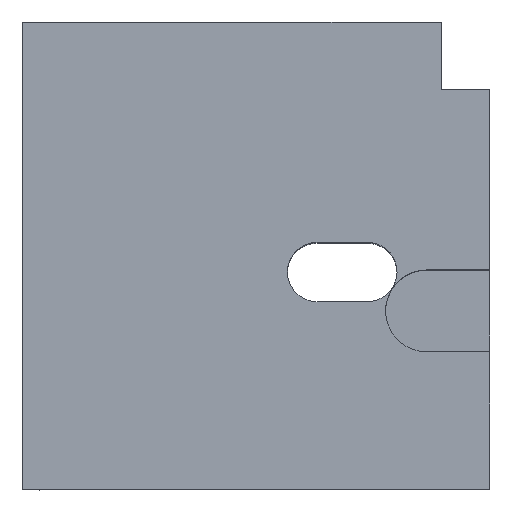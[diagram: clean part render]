
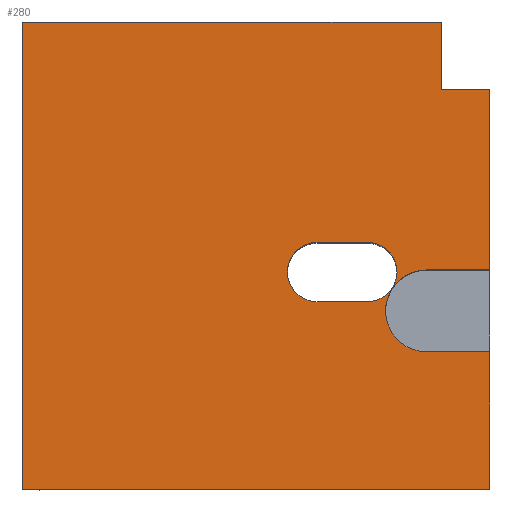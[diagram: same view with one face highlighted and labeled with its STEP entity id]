
A CAD part, top view. The second image highlights one B-rep face of the part: STEP entity #280.
In plain terms, the highlighted planar face has unit normal (0, 0, 1).
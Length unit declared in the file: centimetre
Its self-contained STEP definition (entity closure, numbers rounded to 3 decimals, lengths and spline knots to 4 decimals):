
#1 = CARTESIAN_POINT ( 'NONE',  ( 738.5103, 528.342, 1000. ) ) ;
#47 = ORIENTED_EDGE ( 'NONE', *, *, #2501, .F. ) ;
#74 = VECTOR ( 'NONE', #2489, 100. ) ;
#89 = EDGE_CURVE ( 'NONE', #1667, #173, #754, .T. ) ;
#127 = CARTESIAN_POINT ( 'NONE',  ( 1000., 294.2434, 1000. ) ) ;
#153 = CARTESIAN_POINT ( 'NONE',  ( 630.5576, 528.342, 1000. ) ) ;
#160 = DIRECTION ( 'NONE',  ( 1., 0., 0. ) ) ;
#173 = VERTEX_POINT ( 'NONE', #581 ) ;
#178 = VECTOR ( 'NONE', #2356, 100. ) ;
#202 = ORIENTED_EDGE ( 'NONE', *, *, #2260, .T. ) ;
#203 = DIRECTION ( 'NONE',  ( 0., 0., 1. ) ) ;
#260 = LINE ( 'NONE', #2190, #1070 ) ;
#274 = DIRECTION ( 'NONE',  ( 0., 1., 0. ) ) ;
#280 = ADVANCED_FACE ( 'NONE', ( #1549, #394 ), #2426, .T. ) ;
#296 = VECTOR ( 'NONE', #1153, 100. ) ;
#316 = EDGE_CURVE ( 'NONE', #1686, #1095, #1829, .T. ) ;
#353 = DIRECTION ( 'NONE',  ( 1., 0., 0. ) ) ;
#394 = FACE_OUTER_BOUND ( 'NONE', #1208, .T. ) ;
#408 = DIRECTION ( 'NONE',  ( 0., 0., 1. ) ) ;
#414 = DIRECTION ( 'NONE',  ( -1., 0., 0. ) ) ;
#494 = CARTESIAN_POINT ( 'NONE',  ( 1000., 1000., 1000. ) ) ;
#542 = LINE ( 'NONE', #1187, #1302 ) ;
#564 = DIRECTION ( 'NONE',  ( 0., 0., 1. ) ) ;
#566 = ORIENTED_EDGE ( 'NONE', *, *, #990, .T. ) ;
#581 = CARTESIAN_POINT ( 'NONE',  ( 864.7372, 294.2434, 1000. ) ) ;
#608 = DIRECTION ( 'NONE',  ( 1., 0., 0. ) ) ;
#626 = DIRECTION ( 'NONE',  ( 1., 0., 0. ) ) ;
#632 = CARTESIAN_POINT ( 'NONE',  ( 738.5103, 401.6031, 1000. ) ) ;
#658 = ORIENTED_EDGE ( 'NONE', *, *, #777, .F. ) ;
#670 = CARTESIAN_POINT ( 'NONE',  ( 0., 0., 1000. ) ) ;
#712 = LINE ( 'NONE', #2670, #74 ) ;
#726 = VECTOR ( 'NONE', #414, 100. ) ;
#754 = CIRCLE ( 'NONE', #2374, 87.5399 ) ;
#777 = EDGE_CURVE ( 'NONE', #1726, #1245, #854, .T. ) ;
#793 = CARTESIAN_POINT ( 'NONE',  ( 738.5103, 528.342, 1000. ) ) ;
#807 = VERTEX_POINT ( 'NONE', #1 ) ;
#854 = CIRCLE ( 'NONE', #1560, 63.3695 ) ;
#861 = CARTESIAN_POINT ( 'NONE',  ( 864.7372, 469.3232, 1000. ) ) ;
#871 = CARTESIAN_POINT ( 'NONE',  ( 1000., 0., 1000. ) ) ;
#902 = CARTESIAN_POINT ( 'NONE',  ( 896.3774, 856.0758, 1000. ) ) ;
#980 = DIRECTION ( 'NONE',  ( 0., 1., 0. ) ) ;
#983 = CARTESIAN_POINT ( 'NONE',  ( 896.3774, 856.0758, 1000. ) ) ;
#990 = EDGE_CURVE ( 'NONE', #1465, #1686, #2714, .T. ) ;
#1008 = CARTESIAN_POINT ( 'NONE',  ( 896.3774, 1000., 1000. ) ) ;
#1049 = CARTESIAN_POINT ( 'NONE',  ( 864.7372, 381.7833, 1000. ) ) ;
#1070 = VECTOR ( 'NONE', #2837, 100. ) ;
#1095 = VERTEX_POINT ( 'NONE', #983 ) ;
#1104 = LINE ( 'NONE', #2874, #1969 ) ;
#1116 = CARTESIAN_POINT ( 'NONE',  ( 738.5103, 464.9726, 1000. ) ) ;
#1122 = CIRCLE ( 'NONE', #1994, 63.3695 ) ;
#1130 = DIRECTION ( 'NONE',  ( 1., 0., 0. ) ) ;
#1132 = VERTEX_POINT ( 'NONE', #127 ) ;
#1153 = DIRECTION ( 'NONE',  ( -1., 0., 0. ) ) ;
#1154 = CIRCLE ( 'NONE', #1797, 63.3695 ) ;
#1166 = VERTEX_POINT ( 'NONE', #632 ) ;
#1187 = CARTESIAN_POINT ( 'NONE',  ( 896.3774, 856.0758, 1000. ) ) ;
#1208 = EDGE_LOOP ( 'NONE', ( #2816, #566, #2441, #2494, #2339, #1822, #1225, #202, #2087, #1678 ) ) ;
#1225 = ORIENTED_EDGE ( 'NONE', *, *, #1428, .T. ) ;
#1245 = VERTEX_POINT ( 'NONE', #2643 ) ;
#1264 = DIRECTION ( 'NONE',  ( 1., 0., 0. ) ) ;
#1265 = AXIS2_PLACEMENT_3D ( 'NONE', #670, #1562, #626 ) ;
#1302 = VECTOR ( 'NONE', #980, 100. ) ;
#1325 = EDGE_CURVE ( 'NONE', #2581, #2256, #1104, .T. ) ;
#1346 = LINE ( 'NONE', #1779, #2574 ) ;
#1386 = DIRECTION ( 'NONE',  ( 1., 0., 0. ) ) ;
#1428 = EDGE_CURVE ( 'NONE', #2256, #1956, #1346, .T. ) ;
#1430 = EDGE_CURVE ( 'NONE', #1465, #1667, #712, .T. ) ;
#1465 = VERTEX_POINT ( 'NONE', #2032 ) ;
#1480 = DIRECTION ( 'NONE',  ( 0., -1., 0. ) ) ;
#1502 = LINE ( 'NONE', #2587, #1720 ) ;
#1523 = LINE ( 'NONE', #2132, #1946 ) ;
#1538 = DIRECTION ( 'NONE',  ( 1., 0., 0. ) ) ;
#1548 = CARTESIAN_POINT ( 'NONE',  ( 738.5103, 464.9726, 1000. ) ) ;
#1549 = FACE_BOUND ( 'NONE', #1938, .T. ) ;
#1560 = AXIS2_PLACEMENT_3D ( 'NONE', #2659, #203, #160 ) ;
#1562 = DIRECTION ( 'NONE',  ( 0., 0., 1. ) ) ;
#1578 = EDGE_CURVE ( 'NONE', #1095, #1583, #542, .T. ) ;
#1583 = VERTEX_POINT ( 'NONE', #1008 ) ;
#1667 = VERTEX_POINT ( 'NONE', #861 ) ;
#1678 = ORIENTED_EDGE ( 'NONE', *, *, #89, .F. ) ;
#1686 = VERTEX_POINT ( 'NONE', #2576 ) ;
#1720 = VECTOR ( 'NONE', #1264, 100. ) ;
#1726 = VERTEX_POINT ( 'NONE', #153 ) ;
#1736 = EDGE_CURVE ( 'NONE', #173, #1132, #1523, .T. ) ;
#1775 = ORIENTED_EDGE ( 'NONE', *, *, #1879, .F. ) ;
#1778 = CARTESIAN_POINT ( 'NONE',  ( 801.8797, 464.9726, 1000. ) ) ;
#1779 = CARTESIAN_POINT ( 'NONE',  ( 0., 0., 1000. ) ) ;
#1797 = AXIS2_PLACEMENT_3D ( 'NONE', #1116, #2222, #1130 ) ;
#1822 = ORIENTED_EDGE ( 'NONE', *, *, #1325, .T. ) ;
#1829 = LINE ( 'NONE', #902, #296 ) ;
#1879 = EDGE_CURVE ( 'NONE', #2070, #807, #1122, .T. ) ;
#1896 = LINE ( 'NONE', #793, #178 ) ;
#1938 = EDGE_LOOP ( 'NONE', ( #658, #47, #1775, #1942, #2368 ) ) ;
#1942 = ORIENTED_EDGE ( 'NONE', *, *, #2361, .F. ) ;
#1945 = CARTESIAN_POINT ( 'NONE',  ( 0., 0., 1000. ) ) ;
#1946 = VECTOR ( 'NONE', #1538, 100. ) ;
#1956 = VERTEX_POINT ( 'NONE', #871 ) ;
#1962 = CARTESIAN_POINT ( 'NONE',  ( 0., 1000., 1000. ) ) ;
#1969 = VECTOR ( 'NONE', #1480, 100. ) ;
#1994 = AXIS2_PLACEMENT_3D ( 'NONE', #1548, #408, #608 ) ;
#2032 = CARTESIAN_POINT ( 'NONE',  ( 1000., 469.3232, 1000. ) ) ;
#2070 = VERTEX_POINT ( 'NONE', #1778 ) ;
#2087 = ORIENTED_EDGE ( 'NONE', *, *, #1736, .F. ) ;
#2118 = EDGE_CURVE ( 'NONE', #1245, #1166, #1502, .T. ) ;
#2132 = CARTESIAN_POINT ( 'NONE',  ( 864.7372, 294.2434, 1000. ) ) ;
#2190 = CARTESIAN_POINT ( 'NONE',  ( 1000., 1000., 1000. ) ) ;
#2222 = DIRECTION ( 'NONE',  ( 0., 0., 1. ) ) ;
#2256 = VERTEX_POINT ( 'NONE', #1945 ) ;
#2260 = EDGE_CURVE ( 'NONE', #1956, #1132, #260, .T. ) ;
#2339 = ORIENTED_EDGE ( 'NONE', *, *, #2762, .T. ) ;
#2356 = DIRECTION ( 'NONE',  ( -1., 0., 0. ) ) ;
#2361 = EDGE_CURVE ( 'NONE', #1166, #2070, #1154, .T. ) ;
#2368 = ORIENTED_EDGE ( 'NONE', *, *, #2118, .F. ) ;
#2374 = AXIS2_PLACEMENT_3D ( 'NONE', #1049, #564, #353 ) ;
#2398 = LINE ( 'NONE', #1962, #726 ) ;
#2426 = PLANE ( 'NONE',  #1265 ) ;
#2441 = ORIENTED_EDGE ( 'NONE', *, *, #316, .T. ) ;
#2476 = CARTESIAN_POINT ( 'NONE',  ( 0., 1000., 1000. ) ) ;
#2489 = DIRECTION ( 'NONE',  ( -1., 0., 0. ) ) ;
#2494 = ORIENTED_EDGE ( 'NONE', *, *, #1578, .T. ) ;
#2501 = EDGE_CURVE ( 'NONE', #807, #1726, #1896, .T. ) ;
#2574 = VECTOR ( 'NONE', #1386, 100. ) ;
#2576 = CARTESIAN_POINT ( 'NONE',  ( 1000., 856.0758, 1000. ) ) ;
#2581 = VERTEX_POINT ( 'NONE', #2476 ) ;
#2587 = CARTESIAN_POINT ( 'NONE',  ( 630.5576, 401.6031, 1000. ) ) ;
#2643 = CARTESIAN_POINT ( 'NONE',  ( 630.5576, 401.6031, 1000. ) ) ;
#2659 = CARTESIAN_POINT ( 'NONE',  ( 630.5576, 464.9726, 1000. ) ) ;
#2670 = CARTESIAN_POINT ( 'NONE',  ( 1000., 469.3232, 1000. ) ) ;
#2714 = LINE ( 'NONE', #494, #2805 ) ;
#2762 = EDGE_CURVE ( 'NONE', #1583, #2581, #2398, .T. ) ;
#2805 = VECTOR ( 'NONE', #274, 100. ) ;
#2816 = ORIENTED_EDGE ( 'NONE', *, *, #1430, .F. ) ;
#2837 = DIRECTION ( 'NONE',  ( 0., 1., 0. ) ) ;
#2874 = CARTESIAN_POINT ( 'NONE',  ( 0., 1000., 1000. ) ) ;
